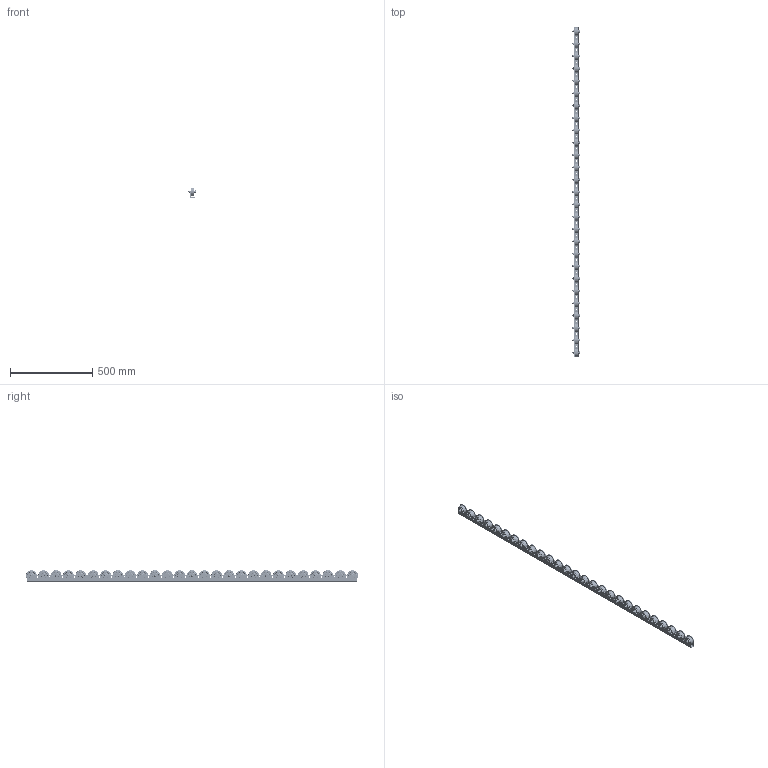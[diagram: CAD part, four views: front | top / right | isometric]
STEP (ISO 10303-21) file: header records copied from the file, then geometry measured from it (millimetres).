
FILE_DESCRIPTION( ( 'Unknown' ), '1' );
FILE_NAME( 'D:/Construktor/Listwy rolkowe 2015/Listwa T622/Listwa T622.stp', 'Unknown', ( 'Unknown' ), ( 'Unknown' ), 'PSStep 17.0.49', 'Unknown', ' ' );
FILE_SCHEMA( ( 'AUTOMOTIVE_DESIGN { 1 0 10303 214 1 1 1 1 }' ) );
Length unit declared in the file: millimetre
Products named in the file (11): Assem1; Ceownik T620; DIN_931_M8x35; DIN_931_M8x35-oa0; DIN_931_M8x35-oa1; Nut_DIN_980_M_M8_v10.50; Nut_DIN_980_M_M8_v10.50-oa2; Nut_DIN_980_M_M8_v10.50-oa3; 622 rolka; 622 rolka-oa4; 622 rolka-oa5
Assembly tree (82 placements, depth 2):
  Assem1
    Ceownik T620
    DIN_931_M8x35  x25
    DIN_931_M8x35-oa0
    DIN_931_M8x35-oa1
    Nut_DIN_980_M_M8_v10.50  x25
    Nut_DIN_980_M_M8_v10.50-oa2
    Nut_DIN_980_M_M8_v10.50-oa3
    622 rolka  x25
    622 rolka-oa4
    622 rolka-oa5
Bounding box: 45.3 x 2015.86 x 69.93 mm (x, y, z)
Volume: 1353546 mm3; surface area: 844930 mm2
Topology: 82 solids, 82 shells, 2518 faces, 5657 edges, 3654 vertices
Faces by surface type: cylinder 861, plane 847, torus 405, cone 405
Full cylindrical faces by diameter (mm): 6.466 x27, 6.647 x27, 6.697 x27, 8 x54, 8.2 x398, 8.3 x27, 8.4 x27, 11.63 x27, 12.5 x27, 12.6 x54, 29.5 x54, 45.6 x54, 50 x27, 66 x27
Entity records: 25778 total; most frequent: CARTESIAN_POINT 3695, DIRECTION 3526, ORIENTED_EDGE 2366, EDGE_LOOP 1996, AXIS2_PLACEMENT_3D 1722, EDGE_CURVE 1183, FACE_OUTER_BOUND 1140, VERTEX_POINT 1099
